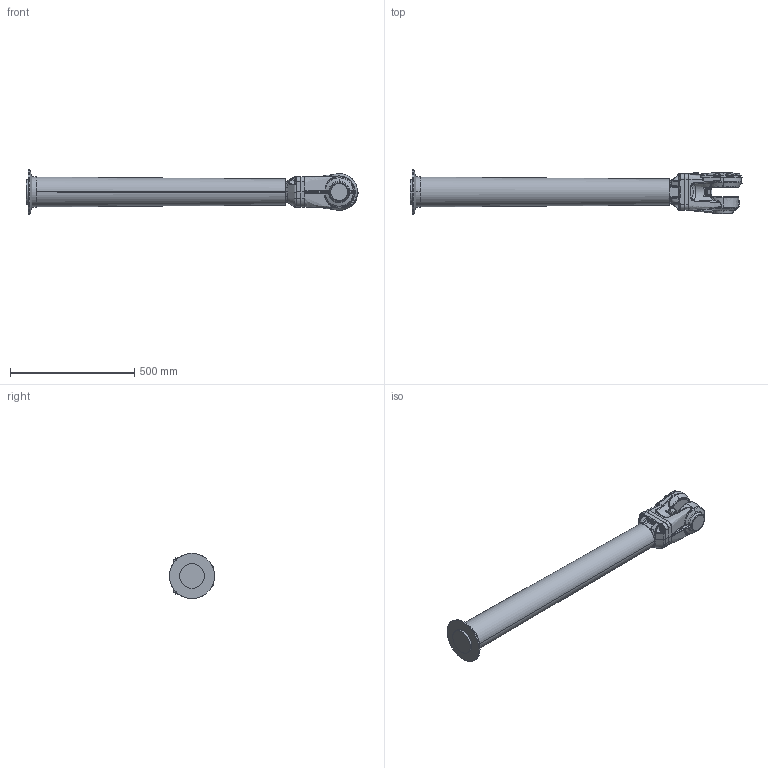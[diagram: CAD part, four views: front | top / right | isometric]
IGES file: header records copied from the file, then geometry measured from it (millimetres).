
Start section: SolidWorks IGES file using analytic representation for surfaces
Global section: file name: C:\Users\sefaane2\Downloads\Sparad modell IRB4400 10\Final SolidWorks CADSIM models and .txt file\Macro\Macro_IRC5_IGES_j\IRB4400_L10-253_IRC5_rev03_LINK04_CAD.IGS; native system: SolidWorks 2014; preprocessor: SolidWorks 2014; author: SEFAANE2; date: 161103.133221; units: millimetre
Bounding box: 1338.5 x 182 x 182 mm (x, y, z)
Surface area: 614176.7 mm2 (no closed solid volume)
Topology: 0 solids, 0 shells, 970 faces, 11599 edges, 11563 vertices
Faces by surface type: bspline 701, revolution 269
